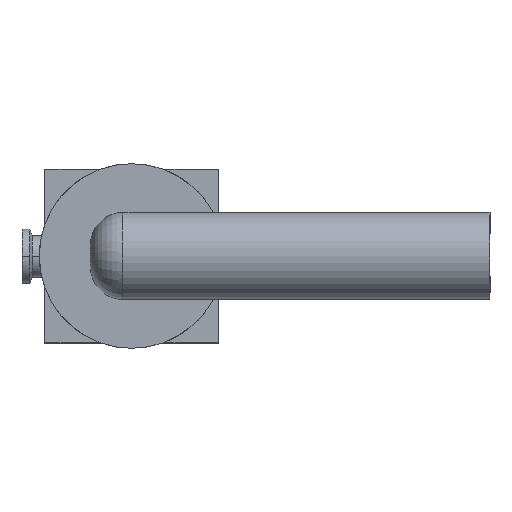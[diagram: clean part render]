
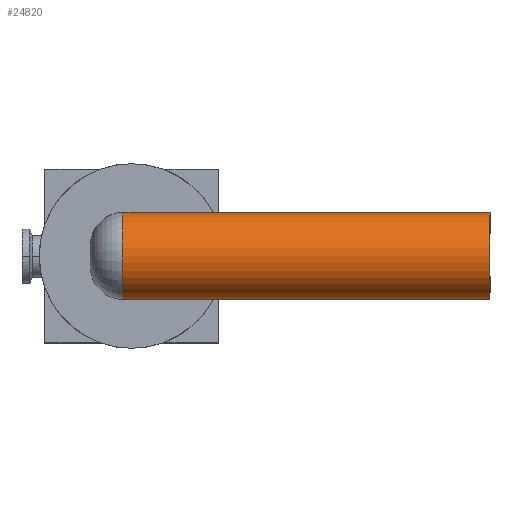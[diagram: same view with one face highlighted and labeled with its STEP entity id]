
A CAD part, top view. The second image highlights one B-rep face of the part: STEP entity #24820.
In plain terms, the highlighted cylindrical face has radius 20 mm (diameter 40 mm), a partial arc.
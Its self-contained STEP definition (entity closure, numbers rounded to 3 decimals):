
#22900=CARTESIAN_POINT('',(85.5,-2.846,
70.062));
#22910=VERTEX_POINT('',#22900);
#22940=CARTESIAN_POINT('',(5.5,-2.846,
70.062));
#22950=DIRECTION('',(1.,0.,0.));
#22960=VECTOR('',#22950,1.);
#22970=LINE('',#22940,#22960);
#22980=CARTESIAN_POINT('',(-17.5,-2.846,70.062));
#22990=VERTEX_POINT('',#22980);
#23000=EDGE_CURVE('',#22990,#22910,#22970,.T.);
#23540=CARTESIAN_POINT('',(85.5,-31.131,41.778));
#23550=VERTEX_POINT('',#23540);
#23790=CARTESIAN_POINT('',(5.5,-31.131,41.778))
;
#23800=DIRECTION('',(1.,0.,0.));
#23810=VECTOR('',#23800,1.);
#23820=LINE('',#23790,#23810);
#23830=CARTESIAN_POINT('',(-17.5,-31.131,41.778));
#23840=VERTEX_POINT('',#23830);
#23850=EDGE_CURVE('',#23840,#23550,#23820,.T.);
#24210=CARTESIAN_POINT('',(5.5,-31.131,41.778));
#24220=DIRECTION('',(1.,0.,0.));
#24230=VECTOR('',#24220,1.);
#24240=LINE('',#24210,#24230);
#24250=CARTESIAN_POINT('',(151.5,-31.131,41.778));
#24260=VERTEX_POINT('',#24250);
#24270=EDGE_CURVE('',#23550,#24260,#24240,.T.);
#24330=CARTESIAN_POINT('',(151.5,-2.846,70.062));
#24340=VERTEX_POINT('',#24330);
#24370=CARTESIAN_POINT('',(5.5,-2.846,
70.062));
#24380=DIRECTION('',(1.,0.,0.));
#24390=VECTOR('',#24380,1.);
#24400=LINE('',#24370,#24390);
#24410=EDGE_CURVE('',#22910,#24340,#24400,.T.);
#24520=CARTESIAN_POINT('',(151.5,-16.989,55.92));
#24530=DIRECTION('',(1.,0.,0.));
#24540=DIRECTION('',(0.,0.707,
0.707));
#24550=AXIS2_PLACEMENT_3D('',#24520,#24530,#24540);
#24560=CIRCLE('',#24550,20.);
#24570=EDGE_CURVE('',#24340,#24260,#24560,.T.);
#24630=CARTESIAN_POINT('',(5.5,-16.989,
55.92));
#24640=DIRECTION('',(1.,0.,0.));
#24650=DIRECTION('',(0.,0.707,
0.707));
#24660=AXIS2_PLACEMENT_3D('',#24630,#24640,#24650);
#24670=CYLINDRICAL_SURFACE('',#24660,20.);
#24680=CARTESIAN_POINT('',(-17.5,-16.989,55.92));
#24690=DIRECTION('',(1.,0.,0.));
#24700=DIRECTION('',(0.,0.707,
-0.707));
#24710=AXIS2_PLACEMENT_3D('',#24680,#24690,#24700);
#24720=CIRCLE('',#24710,20.);
#24730=EDGE_CURVE('',#22990,#23840,#24720,.T.);
#24740=ORIENTED_EDGE('',*,*,#24730,.T.);
#24750=ORIENTED_EDGE('',*,*,#23000,.F.);
#24760=ORIENTED_EDGE('',*,*,#24410,.F.);
#24770=ORIENTED_EDGE('',*,*,#24570,.F.);
#24780=ORIENTED_EDGE('',*,*,#24270,.T.);
#24790=ORIENTED_EDGE('',*,*,#23850,.T.);
#24800=EDGE_LOOP('',(#24790,#24780,#24770,#24760,#24750,#24740));
#24810=FACE_OUTER_BOUND('',#24800,.T.);
#24820=ADVANCED_FACE('',(#24810),#24670,.T.);
